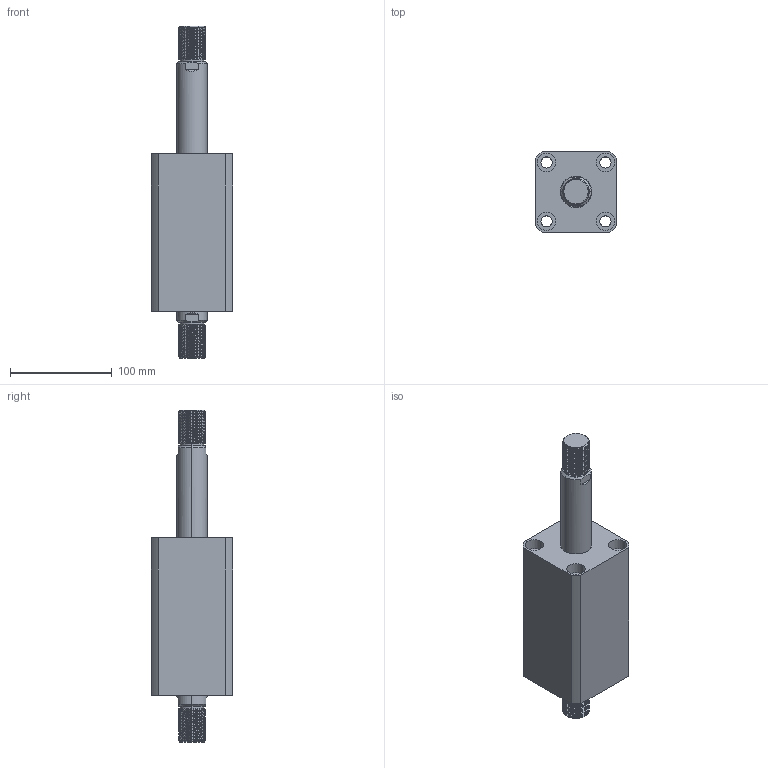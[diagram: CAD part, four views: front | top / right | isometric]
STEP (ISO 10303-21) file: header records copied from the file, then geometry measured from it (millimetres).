
FILE_DESCRIPTION (( 'STEP AP203' ), '1' );
FILE_NAME ('CHTB-SW50-80W.STEP', '2018-05-21T07:16:12', ( '' ), ( '' ), 'SwSTEP 2.0', 'SolidWorks 2015', '' );
FILE_SCHEMA (( 'CONFIG_CONTROL_DESIGN' ));
Length unit declared in the file: millimetre
Products named in the file (4): 掛极SW50-80W; CHTB-SW50-80W; ヶ裔; 活塞杆SW50-80W
Assembly tree (3 placements, depth 2):
  CHTB-SW50-80W
    掛极SW50-80W
    活塞杆SW50-80W
    ヶ裔
Bounding box: 80 x 80 x 327 mm (x, y, z)
Volume: 902854.9 mm3; surface area: 161164.6 mm2
Topology: 3 solids, 3 shells, 314 faces, 794 edges, 514 vertices
Faces by surface type: cylinder 202, plane 51, cone 29, torus 24, bspline 8
Entity records: 17377 total; most frequent: CARTESIAN_POINT 10049, ORIENTED_EDGE 1580, DIRECTION 1358, EDGE_CURVE 790, AXIS2_PLACEMENT_3D 549, VERTEX_POINT 514, EDGE_LOOP 362, ADVANCED_FACE 314
